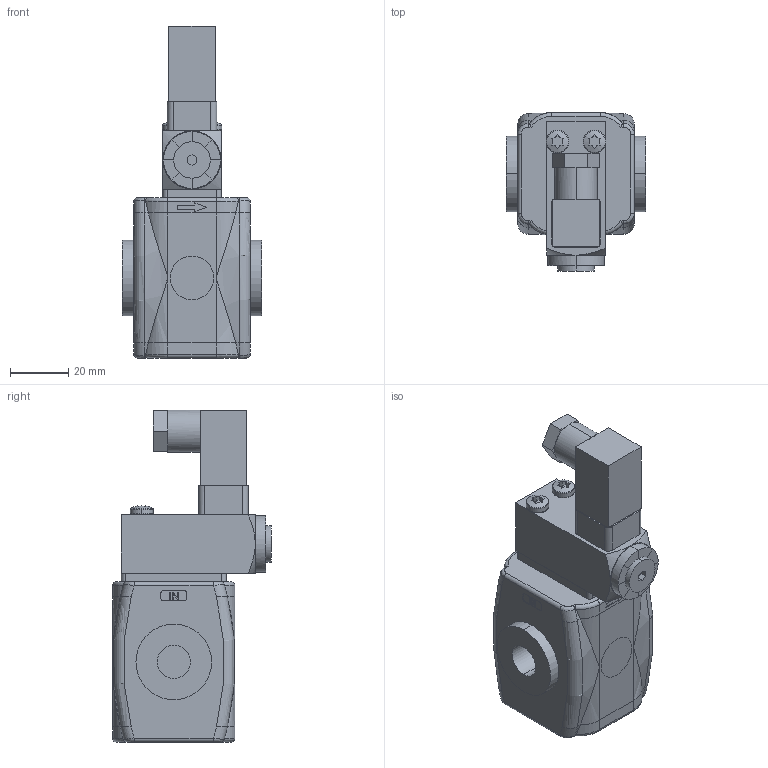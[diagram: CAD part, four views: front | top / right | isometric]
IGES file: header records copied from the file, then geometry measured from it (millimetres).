
Global section: file name: No Iges File Name specified; native system: Autodesk Inventor 2010; preprocessor: AutoDesk Inventor Iges Exporter R2010; author: valotma1; date: 20100823.141846; units: millimetre
Bounding box: 48 x 54.5 x 114 mm (x, y, z)
Volume: 124364.4 mm3; surface area: 22054 mm2
Topology: 2 solids, 2 shells, 327 faces, 801 edges, 507 vertices
Faces by surface type: plane 159, bspline 81, cylinder 50, torus 24, revolution 8, cone 4, sphere 1
